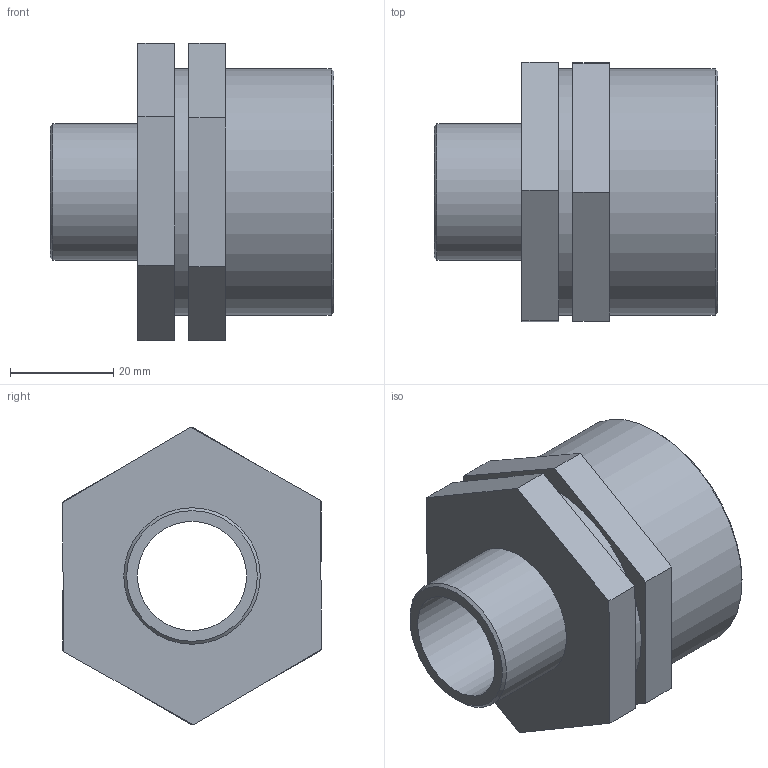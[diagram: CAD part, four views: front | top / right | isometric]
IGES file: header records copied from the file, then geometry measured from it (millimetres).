
Global section: file name: 050605015007_0506050150070A.ipt; native system: Autodesk Inventor 2015; preprocessor: unknown; author: KIM; date: 20170618.093230; units: millimetre
Bounding box: 55 x 50.27 x 57.73 mm (x, y, z)
Volume: 38834.8 mm3; surface area: 17051.6 mm2
Topology: 1 solids, 1 shells, 26 faces, 59 edges, 40 vertices
Faces by surface type: plane 19, cylinder 3, cone 2, revolution 2
Full cylindrical faces by diameter (mm): 26.441 x1, 47.803 x2
